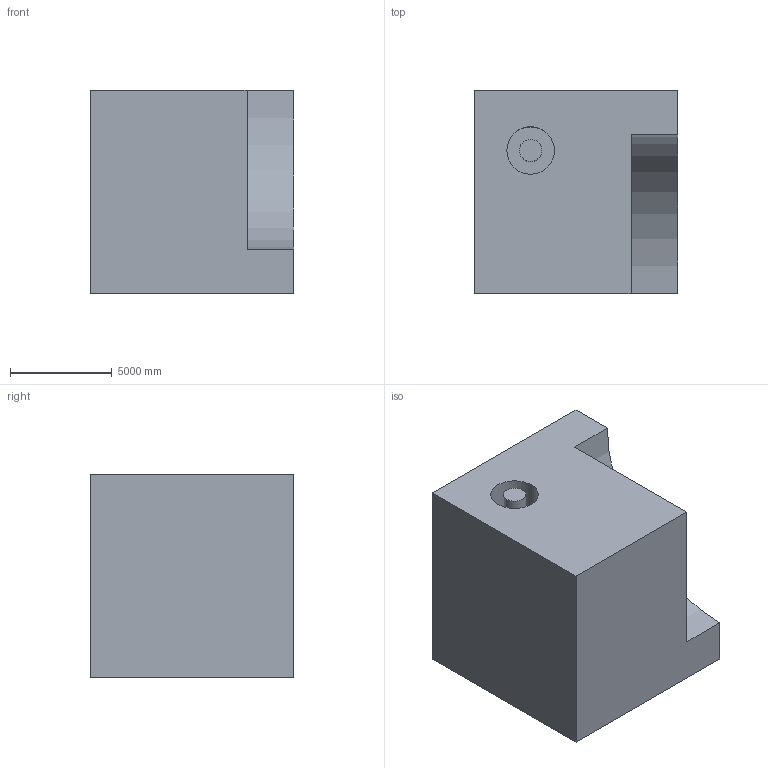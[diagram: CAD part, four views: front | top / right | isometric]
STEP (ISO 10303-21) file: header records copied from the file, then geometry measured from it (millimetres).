
FILE_DESCRIPTION (( 'STEP AP203' ), '1' );
FILE_NAME ('101.STEP', '2022-09-06T13:16:17', ( 'user' ), ( '' ), 'SwSTEP 2.0', 'SolidWorks 2021', '' );
FILE_SCHEMA (( 'CONFIG_CONTROL_DESIGN' ));
Length unit declared in the file: centimetre
Products named in the file (1): 101
Bounding box: 10000 x 10000 x 10000 mm (x, y, z)
Volume: 865510278822.3 mm3; surface area: 670416438.4 mm2
Topology: 1 solids, 1 shells, 14 faces, 30 edges, 20 vertices
Faces by surface type: plane 9, cylinder 5
Entity records: 461 total; most frequent: DIRECTION 70, CARTESIAN_POINT 65, ORIENTED_EDGE 60, EDGE_CURVE 30, AXIS2_PLACEMENT_3D 25, LINE 20, VECTOR 20, VERTEX_POINT 20
